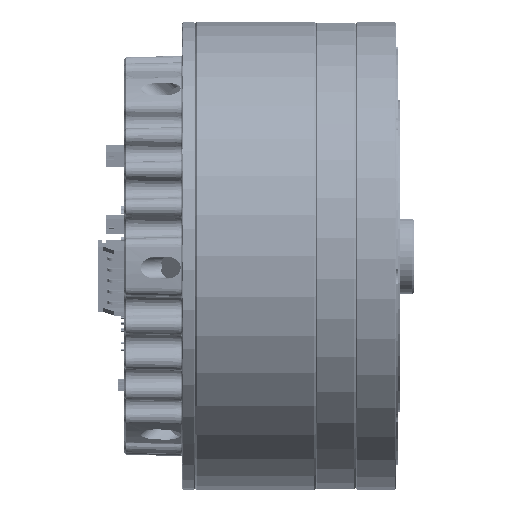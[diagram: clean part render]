
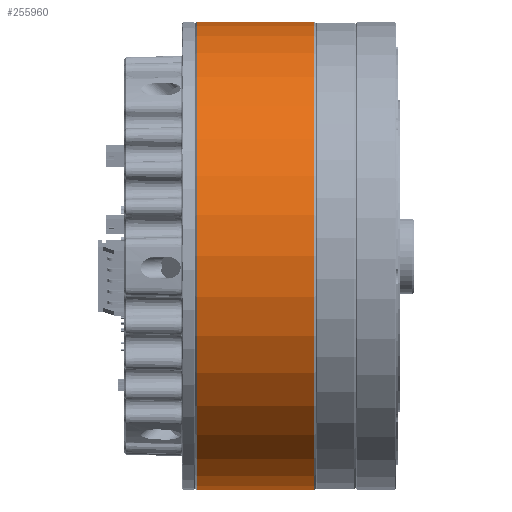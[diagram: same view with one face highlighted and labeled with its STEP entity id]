
A CAD part, front view. The second image highlights one B-rep face of the part: STEP entity #255960.
In plain terms, the highlighted cylindrical face has radius 52.5 mm (diameter 105 mm), a full revolution.
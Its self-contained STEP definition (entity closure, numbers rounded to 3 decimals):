
#26376=FACE_OUTER_BOUND('',#39982,.T.);
#39982=EDGE_LOOP('',(#210213,#210214,#210215,#210216));
#56293=LINE('',#417669,#79562);
#79562=VECTOR('',#332012,52.5);
#102826=CIRCLE('',#279683,52.5);
#102827=CIRCLE('',#279685,52.5);
#119388=VERTEX_POINT('',#417664);
#119389=VERTEX_POINT('',#417668);
#151381=EDGE_CURVE('',#119388,#119388,#102826,.T.);
#151382=EDGE_CURVE('',#119388,#119389,#56293,.T.);
#151383=EDGE_CURVE('',#119389,#119389,#102827,.T.);
#210213=ORIENTED_EDGE('',*,*,#151381,.F.);
#210214=ORIENTED_EDGE('',*,*,#151382,.T.);
#210215=ORIENTED_EDGE('',*,*,#151383,.F.);
#210216=ORIENTED_EDGE('',*,*,#151382,.F.);
#247752=CYLINDRICAL_SURFACE('',#279684,52.5);
#255960=ADVANCED_FACE('',(#26376),#247752,.T.);
#279683=AXIS2_PLACEMENT_3D('',#417666,#332008,#332009);
#279684=AXIS2_PLACEMENT_3D('',#417667,#332010,#332011);
#279685=AXIS2_PLACEMENT_3D('',#417670,#332013,#332014);
#332008=DIRECTION('center_axis',(1.,0.,0.));
#332009=DIRECTION('ref_axis',(0.,-1.,0.));
#332010=DIRECTION('center_axis',(1.,0.,0.));
#332011=DIRECTION('ref_axis',(0.,-1.,0.));
#332012=DIRECTION('',(-1.,0.,0.));
#332013=DIRECTION('center_axis',(-1.,0.,0.));
#332014=DIRECTION('ref_axis',(0.,-1.,0.));
#417664=CARTESIAN_POINT('',(26.7,52.5,0.));
#417666=CARTESIAN_POINT('Origin',(26.7,0.,0.));
#417667=CARTESIAN_POINT('Origin',(0.,0.,0.));
#417668=CARTESIAN_POINT('',(0.3,52.5,0.));
#417669=CARTESIAN_POINT('',(0.,52.5,0.));
#417670=CARTESIAN_POINT('Origin',(0.3,0.,0.));
